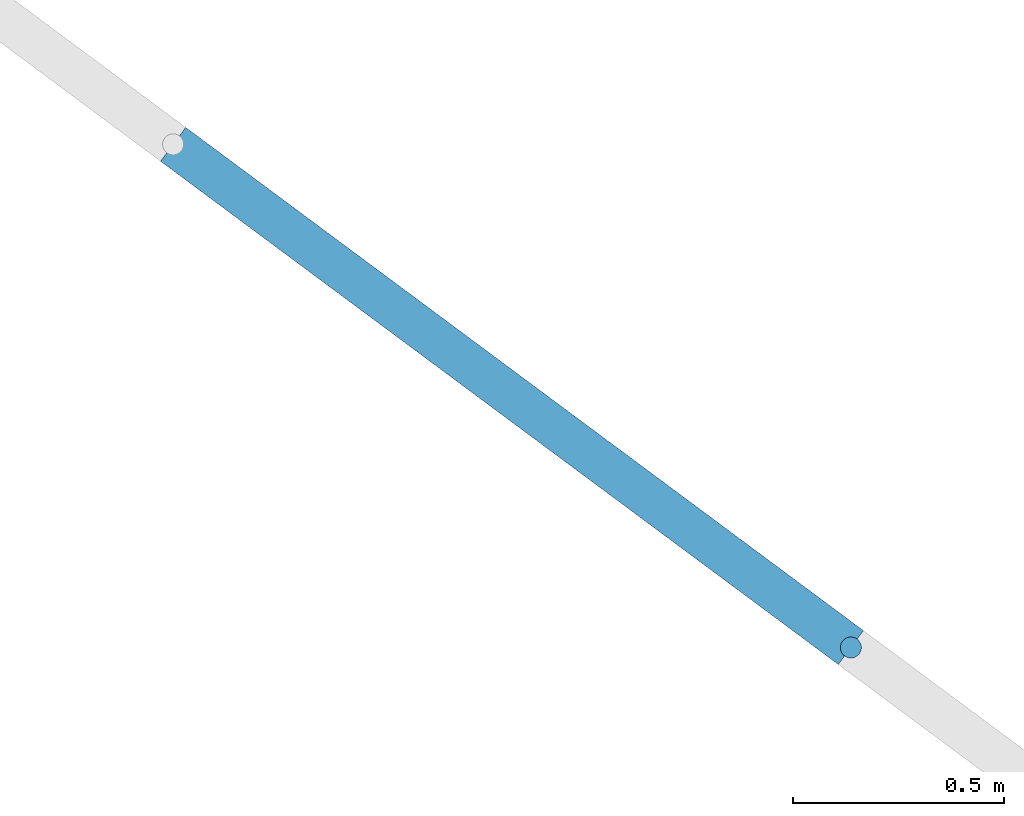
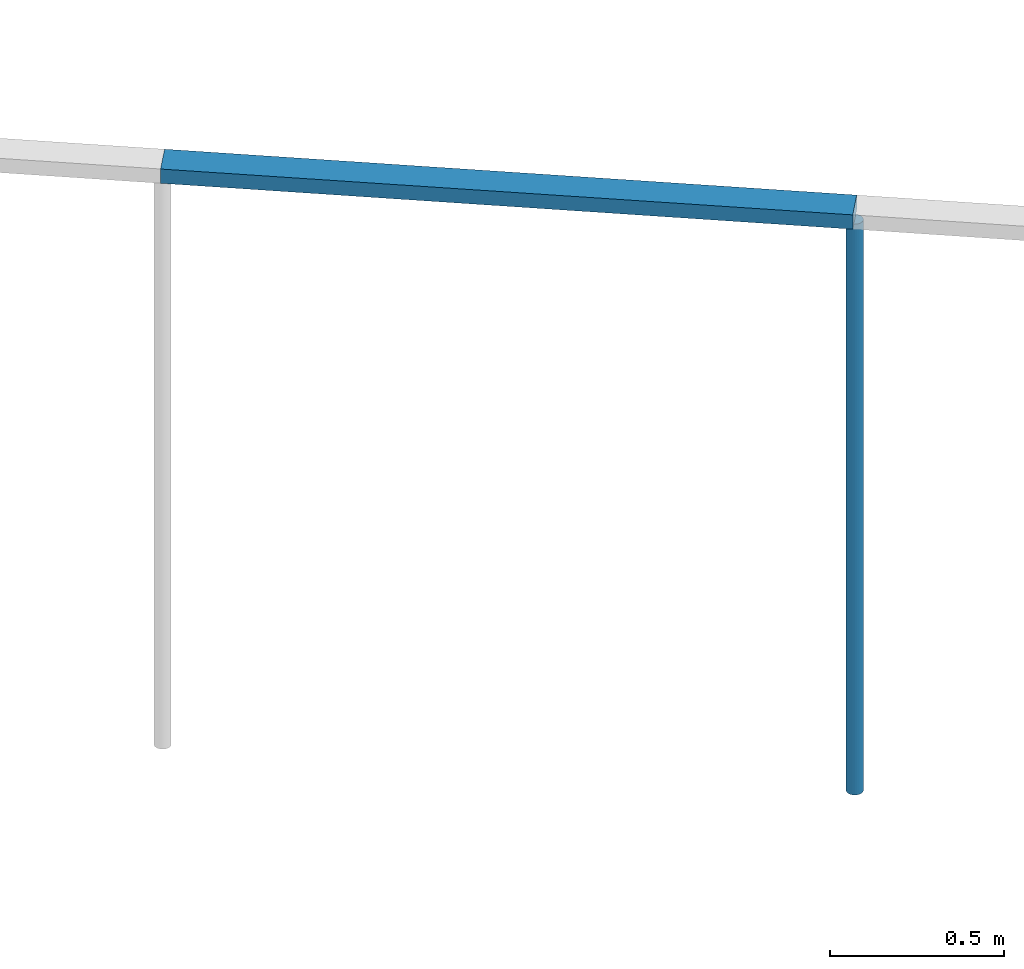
# One storey, part 1 of 12: 2 members, 1 element without a shape of its own.
"""IFC2X3 building model written with IfcOpenShell, lengths in metres."""

from ifc_helpers import new_model, entity, si_unit, converted_unit, derived_unit, direction, frame, frame_2d, origin, origin_2d_with_axis, place, context, subcontext, project, spatial, rectangle, circle, extrude, source, transform, mapped, material, type_object, type_shapes, element, aggregate, save


model = new_model("IFC2X3")

# Units and contexts
model_context = context("Model", 3, precision=1e-05, world=origin(), true_north=direction((6.123031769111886e-17, 1.0)))
body_context = subcontext(model_context, "Body", "Model", "MODEL_VIEW")
ifc_project = project(units=[si_unit("LENGTHUNIT", "METRE"), si_unit("AREAUNIT", "SQUARE_METRE"), si_unit("VOLUMEUNIT", "CUBIC_METRE"), converted_unit("PLANEANGLEUNIT", "DEGREE", entity("IfcRatioMeasure", 0.017453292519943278), si_unit("PLANEANGLEUNIT", "RADIAN"), dimensions=[0, 0, 0, 0, 0, 0, 0]), si_unit("MASSUNIT", "GRAM", prefix="KILO"), derived_unit("MASSDENSITYUNIT", [(si_unit("MASSUNIT", "GRAM", prefix="KILO"), 1), (si_unit("LENGTHUNIT", "METRE"), -3)]), derived_unit("IONCONCENTRATIONUNIT", [(si_unit("MASSUNIT", "GRAM", prefix="KILO"), 1), (si_unit("LENGTHUNIT", "METRE"), -3)]), derived_unit("MOMENTOFINERTIAUNIT", [(si_unit("LENGTHUNIT", "METRE"), 4)]), si_unit("TIMEUNIT", "SECOND"), si_unit("FREQUENCYUNIT", "HERTZ"), si_unit("THERMODYNAMICTEMPERATUREUNIT", "DEGREE_CELSIUS"), derived_unit("THERMALTRANSMITTANCEUNIT", [(si_unit("MASSUNIT", "GRAM", prefix="KILO"), 1), (si_unit("THERMODYNAMICTEMPERATUREUNIT", "KELVIN"), -1), (si_unit("TIMEUNIT", "SECOND"), -3)]), derived_unit("THERMALCONDUCTANCEUNIT", [(si_unit("MASSUNIT", "GRAM", prefix="KILO"), 1), (si_unit("THERMODYNAMICTEMPERATUREUNIT", "KELVIN"), -1), (si_unit("TIMEUNIT", "SECOND"), -3), (si_unit("LENGTHUNIT", "METRE"), 1)]), derived_unit("VOLUMETRICFLOWRATEUNIT", [(si_unit("LENGTHUNIT", "METRE"), 3), (si_unit("TIMEUNIT", "SECOND"), -1)]), derived_unit("MASSFLOWRATEUNIT", [(si_unit("MASSUNIT", "GRAM", prefix="KILO"), 1), (si_unit("TIMEUNIT", "SECOND"), -1)]), derived_unit("ROTATIONALFREQUENCYUNIT", [(si_unit("TIMEUNIT", "SECOND"), -1)]), si_unit("ELECTRICCURRENTUNIT", "AMPERE"), si_unit("ELECTRICVOLTAGEUNIT", "VOLT"), si_unit("POWERUNIT", "WATT"), si_unit("FORCEUNIT", "NEWTON", prefix="KILO"), si_unit("ILLUMINANCEUNIT", "LUX"), si_unit("LUMINOUSFLUXUNIT", "LUMEN"), si_unit("LUMINOUSINTENSITYUNIT", "CANDELA"), derived_unit("USERDEFINED", [(si_unit("MASSUNIT", "GRAM", prefix="KILO"), -1), (si_unit("LENGTHUNIT", "METRE"), -2), (si_unit("TIMEUNIT", "SECOND"), 3), (si_unit("LUMINOUSFLUXUNIT", "LUMEN"), 1)]), derived_unit("USERDEFINED", [(si_unit("MASSUNIT", "GRAM", prefix="KILO"), 1), (si_unit("TIMEUNIT", "SECOND"), -3), (si_unit("LENGTHUNIT", "METRE"), 3), (si_unit("ELECTRICCURRENTUNIT", "AMPERE"), -2)]), derived_unit("SOUNDPOWERUNIT", [(si_unit("MASSUNIT", "GRAM", prefix="KILO"), 1), (si_unit("TIMEUNIT", "SECOND"), -3), (si_unit("LENGTHUNIT", "METRE"), 2)]), derived_unit("SOUNDPRESSUREUNIT", [(si_unit("MASSUNIT", "GRAM", prefix="KILO"), 1), (si_unit("LENGTHUNIT", "METRE"), -1), (si_unit("TIMEUNIT", "SECOND"), -2)]), derived_unit("LINEARVELOCITYUNIT", [(si_unit("LENGTHUNIT", "METRE"), 1), (si_unit("TIMEUNIT", "SECOND"), -1)]), si_unit("PRESSUREUNIT", "PASCAL"), derived_unit("USERDEFINED", [(si_unit("MASSUNIT", "GRAM", prefix="KILO"), 1), (si_unit("LENGTHUNIT", "METRE"), -2), (si_unit("TIMEUNIT", "SECOND"), -2)]), derived_unit("LINEARFORCEUNIT", [(si_unit("MASSUNIT", "GRAM", prefix="KILO"), 1), (si_unit("TIMEUNIT", "SECOND"), -2)]), derived_unit("PLANARFORCEUNIT", [(si_unit("MASSUNIT", "GRAM", prefix="KILO"), 1), (si_unit("LENGTHUNIT", "METRE"), -1), (si_unit("TIMEUNIT", "SECOND"), -2)]), derived_unit("SPECIFICHEATCAPACITYUNIT", [(si_unit("THERMODYNAMICTEMPERATUREUNIT", "KELVIN"), -1), (si_unit("LENGTHUNIT", "METRE"), 2), (si_unit("TIMEUNIT", "SECOND"), -2)]), derived_unit("HEATINGVALUEUNIT", [(si_unit("LENGTHUNIT", "METRE"), 2), (si_unit("TIMEUNIT", "SECOND"), -2)]), derived_unit("VAPORPERMEABILITYUNIT", [(si_unit("LENGTHUNIT", "METRE"), -1), (si_unit("TIMEUNIT", "SECOND"), 1)]), derived_unit("DYNAMICVISCOSITYUNIT", [(si_unit("MASSUNIT", "GRAM", prefix="KILO"), 1), (si_unit("TIMEUNIT", "SECOND"), -1), (si_unit("LENGTHUNIT", "METRE"), -1)]), derived_unit("THERMALEXPANSIONCOEFFICIENTUNIT", [(si_unit("THERMODYNAMICTEMPERATUREUNIT", "KELVIN"), -1)]), derived_unit("MODULUSOFELASTICITYUNIT", [(si_unit("MASSUNIT", "GRAM", prefix="KILO"), 1), (si_unit("LENGTHUNIT", "METRE"), -1), (si_unit("TIMEUNIT", "SECOND"), -2)]), derived_unit("ISOTHERMALMOISTURECAPACITYUNIT", [(si_unit("LENGTHUNIT", "METRE"), 3), (si_unit("MASSUNIT", "GRAM", prefix="KILO"), -1)]), derived_unit("MOISTUREDIFFUSIVITYUNIT", [(si_unit("TIMEUNIT", "SECOND"), -1), (si_unit("LENGTHUNIT", "METRE"), 2)])], contexts=[model_context])

# Site, building, storey
site_placement = place(None, origin())
site = spatial("IfcSite", under=ifc_project, at=site_placement, Name="Superficie", CompositionType="ELEMENT")
building_placement = place(site_placement, frame((0.0, 0.0, 235.0), z_axis=(0.0, 0.0, 1.0), x_axis=(-0.7996477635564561, 0.6004693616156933, 0.0)))
building = spatial("IfcBuilding", under=site, at=building_placement, CompositionType="ELEMENT")
storey_placement = place(building_placement, frame((0.0, 0.0, -4.459999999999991)))
storey = spatial("IfcBuildingStorey", under=building, at=storey_placement, Name="PS1- Vestuari", CompositionType="ELEMENT", Elevation=-4.459999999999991)

# Curtain wall, members
curtain_wall_type = type_object("IfcCurtainWallType", Name="Muro cortina:SER EXT- Tanca exterior", PredefinedType="NOTDEFINED")
curtain_wall_placement = place(storey_placement, frame((0.0, 0.0, 4.459999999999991)))
curtain_wall = element("IfcCurtainWall", 1, at=curtain_wall_placement, inside=storey, type_object=curtain_wall_type, Name="Muro cortina:SER EXT- Tanca exterior", ObjectType="Muro cortina:SER EXT- Tanca exterior")
ifc_material_1 = material(Name="Acero inoxidable")
member_type_1 = type_object("IfcMemberType", Name="Montante circular:Perfil Tanca exterior", PredefinedType="MULLION", material=ifc_material_1)
shared_shape_1 = source(origin(), body_context, "Body", "SweptSolid", [
    extrude(circle(Radius=0.025, at=frame_2d((-2.1149748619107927e-18, -4.0388614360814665e-17), x_axis=(1.0, 0.0))), frame((0.0, 0.0, -2.0), z_axis=(0.0, 0.0, 1.0), x_axis=(-1.0, 0.0, 0.0)), (0.0, 0.0, 1.0), 1.9999999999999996),
])
type_shapes(member_type_1, [shared_shape_1])
member_1_placement = place(curtain_wall_placement, frame((29.903127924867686, -66.60990012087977, -5.509999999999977), z_axis=(0.0, 0.0, -1.0), x_axis=(-0.9999853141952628, -0.005419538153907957, 0.0)))
member_1 = element("IfcMember", 2, at=member_1_placement, type_object=member_type_1, material=ifc_material_1, Name="Montante circular:Perfil Tanca exterior", ObjectType="Montante circular:Perfil Tanca exterior", context=body_context, shape_type="MappedRepresentation", body=[
    mapped(shared_shape_1, transform((0.0, 0.0, 0.0), scale=1.0)),
])
ifc_material_2 = material(Name="_Formigó- Solera- T1- STR")
member_type_2 = type_object("IfcMemberType", Name="Montante rectangular:Montante rectangular 100x50", PredefinedType="MULLION", material=ifc_material_2)
shared_shape_2 = source(origin(), body_context, "Body", "SweptSolid", [
    extrude(rectangle(XDim=0.1, YDim=0.05000000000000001, at=origin_2d_with_axis()), frame((-0.025000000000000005, 0.0, -2.0), z_axis=(0.0, 0.0, 1.0), x_axis=(0.0, -1.0, 0.0)), (0.0, 0.0, 1.0), 2.0000000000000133),
])
type_shapes(member_type_2, [shared_shape_2])
member_2_placement = place(curtain_wall_placement, frame((29.90312792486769, -66.60990012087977, -3.459999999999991), z_axis=(-0.9999853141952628, -0.005419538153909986, 0.0), x_axis=(0.0, 0.0, 1.0)))
member_2 = element("IfcMember", 3, at=member_2_placement, type_object=member_type_2, material=ifc_material_2, Name="Montante rectangular:Montante rectangular 100x50", ObjectType="Montante rectangular:Montante rectangular 100x50", context=body_context, shape_type="MappedRepresentation", body=[
    mapped(shared_shape_2, transform((0.0, 0.0, 0.0), scale=1.0)),
])
aggregate(curtain_wall, [member_1, member_2])

save(model, "model.ifc")
